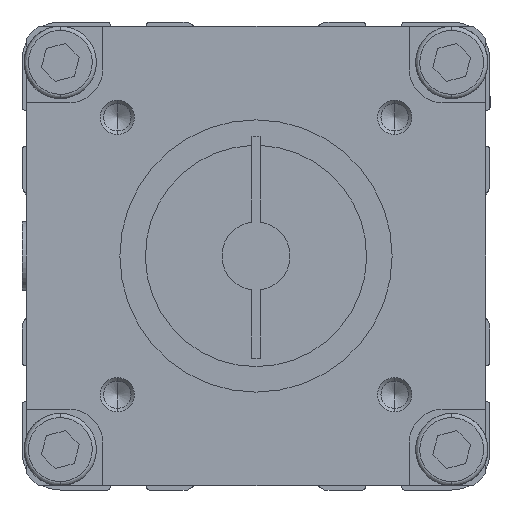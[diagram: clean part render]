
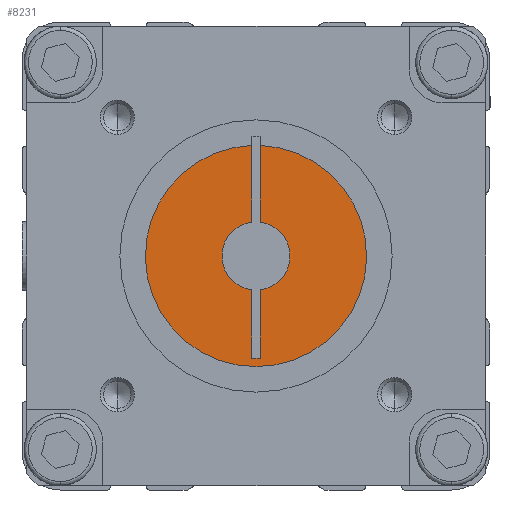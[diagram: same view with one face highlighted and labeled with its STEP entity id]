
A CAD part, left-side view. The second image highlights one B-rep face of the part: STEP entity #8231.
In plain terms, the highlighted planar face has unit normal (-1, 0, 0).
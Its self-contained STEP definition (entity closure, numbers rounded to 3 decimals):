
#684 = CIRCLE ( 'NONE', #11656, 13. ) ;
#742 = LINE ( 'NONE', #6435, #743 ) ;
#743 = VECTOR ( 'NONE', #6434, 1000. ) ;
#823 = CIRCLE ( 'NONE', #11665, 4. ) ;
#825 = LINE ( 'NONE', #7650, #826 ) ;
#826 = VECTOR ( 'NONE', #7654, 1000. ) ;
#829 = LINE ( 'NONE', #7671, #830 ) ;
#830 = VECTOR ( 'NONE', #7672, 1000. ) ;
#834 = CIRCLE ( 'NONE', #11666, 4. ) ;
#874 = LINE ( 'NONE', #7533, #875 ) ;
#875 = VECTOR ( 'NONE', #7532, 1000. ) ;
#880 = LINE ( 'NONE', #7527, #881 ) ;
#881 = VECTOR ( 'NONE', #7526, 1000. ) ;
#885 = CIRCLE ( 'NONE', #11669, 13. ) ;
#1714 = CARTESIAN_POINT ( 'NONE',  ( -196., 0.5, -12. ) ) ;
#1723 = CARTESIAN_POINT ( 'NONE',  ( -196., -0.5, -12. ) ) ;
#1731 = VERTEX_POINT ( 'NONE', #1826 ) ;
#1738 = VERTEX_POINT ( 'NONE', #1825 ) ;
#1743 = VERTEX_POINT ( 'NONE', #1824 ) ;
#1746 = VERTEX_POINT ( 'NONE', #1822 ) ;
#1748 = CARTESIAN_POINT ( 'NONE',  ( -196., -0.5, 12.99 ) ) ;
#1757 = CARTESIAN_POINT ( 'NONE',  ( -196., 0., -13. ) ) ;
#1797 = CARTESIAN_POINT ( 'NONE',  ( -196., 0.5, 12.99 ) ) ;
#1822 = CARTESIAN_POINT ( 'NONE',  ( -196., 0.5, 3.969 ) ) ;
#1824 = CARTESIAN_POINT ( 'NONE',  ( -196., 0.5, -3.969 ) ) ;
#1825 = CARTESIAN_POINT ( 'NONE',  ( -196., -0.5, 3.969 ) ) ;
#1826 = CARTESIAN_POINT ( 'NONE',  ( -196., -0.5, -3.969 ) ) ;
#1843 = VERTEX_POINT ( 'NONE', #1797 ) ;
#1881 = VERTEX_POINT ( 'NONE', #1757 ) ;
#1888 = VERTEX_POINT ( 'NONE', #1748 ) ;
#1907 = VERTEX_POINT ( 'NONE', #1723 ) ;
#1915 = VERTEX_POINT ( 'NONE', #1714 ) ;
#3366 = ORIENTED_EDGE ( 'NONE', *, *, #10288, .T. ) ;
#3367 = ORIENTED_EDGE ( 'NONE', *, *, #10330, .T. ) ;
#3368 = ORIENTED_EDGE ( 'NONE', *, *, #10256, .F. ) ;
#3369 = ORIENTED_EDGE ( 'NONE', *, *, #10365, .F. ) ;
#3370 = ORIENTED_EDGE ( 'NONE', *, *, #10336, .T. ) ;
#3371 = ORIENTED_EDGE ( 'NONE', *, *, #10334, .T. ) ;
#3434 = ORIENTED_EDGE ( 'NONE', *, *, #10332, .T. ) ;
#3435 = ORIENTED_EDGE ( 'NONE', *, *, #10363, .T. ) ;
#3436 = ORIENTED_EDGE ( 'NONE', *, *, #10360, .T. ) ;
#6434 = DIRECTION ( 'NONE',  ( 0., 1., 0. ) ) ;
#6435 = CARTESIAN_POINT ( 'NONE',  ( -196., 0.5, -12. ) ) ;
#6532 = DIRECTION ( 'NONE',  ( 0., 0., -1. ) ) ;
#6533 = DIRECTION ( 'NONE',  ( 1., 0., 0. ) ) ;
#6535 = CARTESIAN_POINT ( 'NONE',  ( -196., 0., 0. ) ) ;
#7526 = DIRECTION ( 'NONE',  ( 0., 0., -1. ) ) ;
#7527 = CARTESIAN_POINT ( 'NONE',  ( -196., -0.5, -6.5 ) ) ;
#7532 = DIRECTION ( 'NONE',  ( 0., 0., 1. ) ) ;
#7533 = CARTESIAN_POINT ( 'NONE',  ( -196., 0.5, -6.5 ) ) ;
#7535 = CARTESIAN_POINT ( 'NONE',  ( -196., 0., 0. ) ) ;
#7536 = DIRECTION ( 'NONE',  ( 0., 0., -1. ) ) ;
#7541 = DIRECTION ( 'NONE',  ( 1., 0., 0. ) ) ;
#7628 = CARTESIAN_POINT ( 'NONE',  ( -196., 0., 0. ) ) ;
#7632 = DIRECTION ( 'NONE',  ( 1., 0., 0. ) ) ;
#7634 = DIRECTION ( 'NONE',  ( 0., 0., 1. ) ) ;
#7650 = CARTESIAN_POINT ( 'NONE',  ( -196., -0.5, -6.5 ) ) ;
#7654 = DIRECTION ( 'NONE',  ( 0., 0., -1. ) ) ;
#7671 = CARTESIAN_POINT ( 'NONE',  ( -196., 0.5, -6.5 ) ) ;
#7672 = DIRECTION ( 'NONE',  ( 0., 0., 1. ) ) ;
#7675 = CARTESIAN_POINT ( 'NONE',  ( -196., 0., 0. ) ) ;
#7676 = DIRECTION ( 'NONE',  ( 1., 0., 0. ) ) ;
#7677 = DIRECTION ( 'NONE',  ( 0., 0., 1. ) ) ;
#8231 = ADVANCED_FACE ( 'NONE', ( #10757 ), #9567, .T. ) ;
#8618 = EDGE_LOOP ( 'NONE', ( #3371, #3370, #3436, #3369, #3368, #3435, #3367, #3434, #3366 ) ) ;
#9559 = DIRECTION ( 'NONE',  ( 0., 0., 1. ) ) ;
#9561 = DIRECTION ( 'NONE',  ( -1., 0., 0. ) ) ;
#9564 = CARTESIAN_POINT ( 'NONE',  ( -196., 0., -6.5 ) ) ;
#9567 = PLANE ( 'NONE',  #11190 ) ;
#10256 = EDGE_CURVE ( 'NONE', #1888, #1881, #684, .T. ) ;
#10288 = EDGE_CURVE ( 'NONE', #1907, #1915, #742, .T. ) ;
#10330 = EDGE_CURVE ( 'NONE', #1738, #1731, #823, .T. ) ;
#10332 = EDGE_CURVE ( 'NONE', #1731, #1907, #825, .T. ) ;
#10334 = EDGE_CURVE ( 'NONE', #1915, #1743, #829, .T. ) ;
#10336 = EDGE_CURVE ( 'NONE', #1743, #1746, #834, .T. ) ;
#10360 = EDGE_CURVE ( 'NONE', #1746, #1843, #874, .T. ) ;
#10363 = EDGE_CURVE ( 'NONE', #1888, #1738, #880, .T. ) ;
#10365 = EDGE_CURVE ( 'NONE', #1881, #1843, #885, .T. ) ;
#10757 = FACE_OUTER_BOUND ( 'NONE', #8618, .T. ) ;
#11190 = AXIS2_PLACEMENT_3D ( 'NONE', #9564, #9561, #9559 ) ;
#11656 = AXIS2_PLACEMENT_3D ( 'NONE', #6535, #6533, #6532 ) ;
#11665 = AXIS2_PLACEMENT_3D ( 'NONE', #7628, #7632, #7634 ) ;
#11666 = AXIS2_PLACEMENT_3D ( 'NONE', #7675, #7676, #7677 ) ;
#11669 = AXIS2_PLACEMENT_3D ( 'NONE', #7535, #7541, #7536 ) ;
